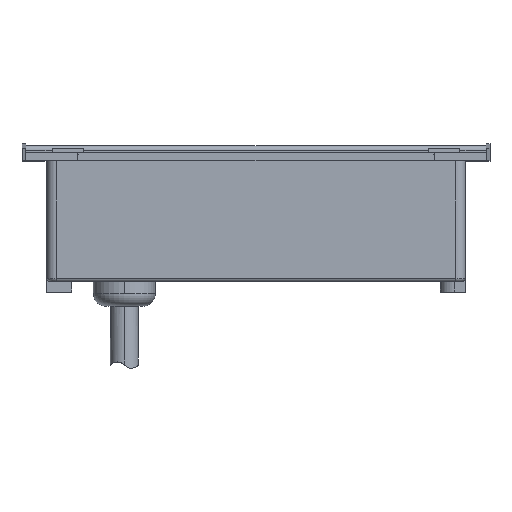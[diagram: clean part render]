
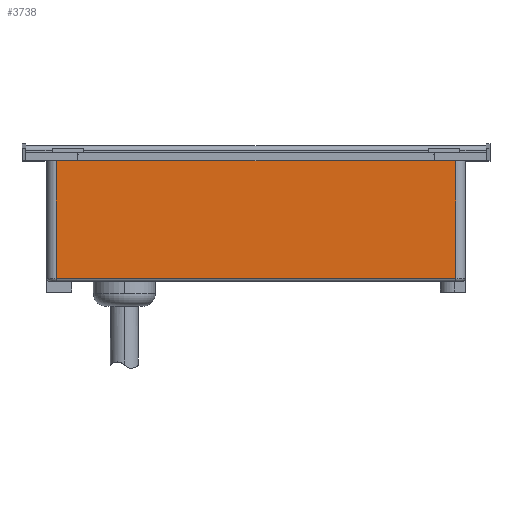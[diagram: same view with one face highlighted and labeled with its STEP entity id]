
A CAD part, top view. The second image highlights one B-rep face of the part: STEP entity #3738.
In plain terms, the highlighted planar face has unit normal (0, 0, 1).
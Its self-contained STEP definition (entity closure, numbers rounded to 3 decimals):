
#165 = CARTESIAN_POINT ( 'NONE',  ( -67.45, 41.5, 25.75 ) ) ;
#345 = AXIS2_PLACEMENT_3D ( 'NONE', #165, #6043, #502 ) ;
#441 = EDGE_CURVE ( 'NONE', #5789, #3768, #4396, .T. ) ;
#502 = DIRECTION ( 'NONE',  ( -1., 0., 0. ) ) ;
#738 = ORIENTED_EDGE ( 'NONE', *, *, #441, .T. ) ;
#1019 = DIRECTION ( 'NONE',  ( 0., 1., 0. ) ) ;
#1373 = VECTOR ( 'NONE', #1019, 1000. ) ;
#1562 = CARTESIAN_POINT ( 'NONE',  ( -64.45, 38.8, 25.75 ) ) ;
#1624 = LINE ( 'NONE', #3697, #2050 ) ;
#1630 = VERTEX_POINT ( 'NONE', #1961 ) ;
#1777 = ORIENTED_EDGE ( 'NONE', *, *, #3208, .T. ) ;
#1812 = LINE ( 'NONE', #2943, #4494 ) ;
#1961 = CARTESIAN_POINT ( 'NONE',  ( -64.45, 1., 25.75 ) ) ;
#2050 = VECTOR ( 'NONE', #3259, 1000. ) ;
#2918 = FACE_OUTER_BOUND ( 'NONE', #7136, .T. ) ;
#2943 = CARTESIAN_POINT ( 'NONE',  ( -64.45, 38.8, 25.75 ) ) ;
#2970 = VECTOR ( 'NONE', #4290, 1000. ) ;
#3199 = ORIENTED_EDGE ( 'NONE', *, *, #4175, .F. ) ;
#3208 = EDGE_CURVE ( 'NONE', #5129, #1630, #6459, .T. ) ;
#3240 = CARTESIAN_POINT ( 'NONE',  ( -64.45, 41.5, 25.75 ) ) ;
#3259 = DIRECTION ( 'NONE',  ( 1., 0., 0. ) ) ;
#3370 = ORIENTED_EDGE ( 'NONE', *, *, #5466, .T. ) ;
#3697 = CARTESIAN_POINT ( 'NONE',  ( 64.45, 1., 25.75 ) ) ;
#3738 = ADVANCED_FACE ( 'NONE', ( #2918 ), #6832, .F. ) ;
#3768 = VERTEX_POINT ( 'NONE', #5596 ) ;
#4081 = CARTESIAN_POINT ( 'NONE',  ( 64.45, 1., 25.75 ) ) ;
#4175 = EDGE_CURVE ( 'NONE', #5129, #3768, #1812, .T. ) ;
#4290 = DIRECTION ( 'NONE',  ( 0., -1., 0. ) ) ;
#4396 = LINE ( 'NONE', #4902, #1373 ) ;
#4494 = VECTOR ( 'NONE', #6093, 1000. ) ;
#4902 = CARTESIAN_POINT ( 'NONE',  ( 64.45, 41.5, 25.75 ) ) ;
#5129 = VERTEX_POINT ( 'NONE', #1562 ) ;
#5466 = EDGE_CURVE ( 'NONE', #1630, #5789, #1624, .T. ) ;
#5596 = CARTESIAN_POINT ( 'NONE',  ( 64.45, 38.8, 25.75 ) ) ;
#5789 = VERTEX_POINT ( 'NONE', #4081 ) ;
#6043 = DIRECTION ( 'NONE',  ( 0., 0., -1. ) ) ;
#6093 = DIRECTION ( 'NONE',  ( 1., 0., 0. ) ) ;
#6459 = LINE ( 'NONE', #3240, #2970 ) ;
#6832 = PLANE ( 'NONE',  #345 ) ;
#7136 = EDGE_LOOP ( 'NONE', ( #1777, #3370, #738, #3199 ) ) ;
